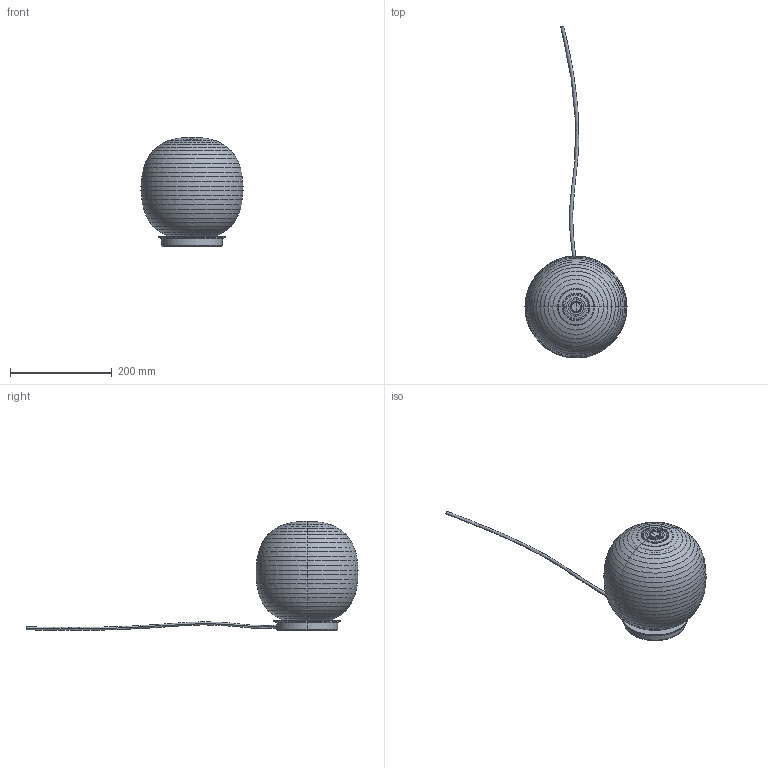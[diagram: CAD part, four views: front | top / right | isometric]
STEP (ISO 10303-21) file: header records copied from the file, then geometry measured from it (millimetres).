
FILE_DESCRIPTION(/* description */ (''),/* implementation_level */ '2;1');
FILE_NAME(/* name */ 'Lantern Globe Table Lamp, Small',/* time_stamp */ '2020-08-28T23:32:22+02:00',/* author */ (''),/* organization */ (''),/* preprocessor_version */ 'ST-DEVELOPER v15',/* originating_system */ '',/* authorisation */ '');
FILE_SCHEMA (('AUTOMOTIVE_DESIGN'));
Length unit declared in the file: millimetre
Products named in the file (13): Document; SMALL_ASM_ASM; BREP_27; 6666_1_2; E14; BREP_21; DENGPAO; SMALL_COVER_ASM; 5_5_2; 6666_2_1; 6666_3_1; M4X10; PRT0001
Assembly tree (16 placements, depth 4):
  Document
    SMALL_ASM_ASM
      BREP_27
      6666_1_2
      E14
      BREP_21
      DENGPAO
      SMALL_COVER_ASM
        5_5_2
        6666_2_1
        6666_3_1
        M4X10  x3
      PRT0001  x3
Bounding box: 200.51 x 652.14 x 215.52 mm (x, y, z)
Volume: 506998.9 mm3; surface area: 337739.2 mm2
Topology: 14 solids, 14 shells, 441 faces, 1005 edges, 596 vertices
Faces by surface type: bspline 404, plane 37
Entity records: 28268 total; most frequent: CARTESIAN_POINT 22862, ORIENTED_EDGE 1758, EDGE_CURVE 879, VERTEX_POINT 530, B_SPLINE_CURVE_WITH_KNOTS 491, EDGE_LOOP 407, ADVANCED_FACE 377, FACE_OUTER_BOUND 377
